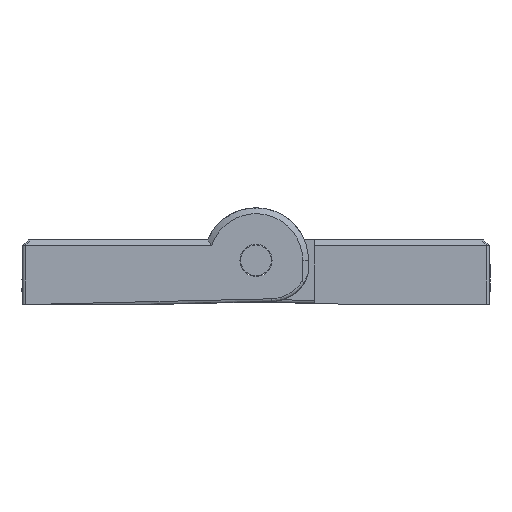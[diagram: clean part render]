
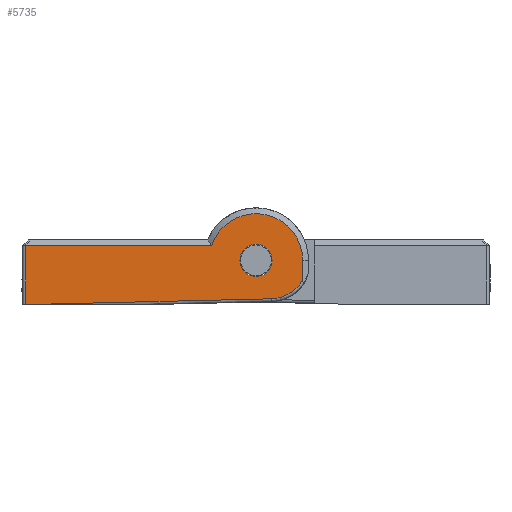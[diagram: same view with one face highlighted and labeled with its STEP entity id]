
A CAD part, front view. The second image highlights one B-rep face of the part: STEP entity #5735.
In plain terms, the highlighted planar face has unit normal (0, -1, 0) as drawn and (0, 1, 0) by its records, which use the part's own axes.
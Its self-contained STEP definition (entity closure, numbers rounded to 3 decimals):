
#127 = DIRECTION ( 'NONE',  ( -1., 0., 0.024 ) ) ;
#267 = DIRECTION ( 'NONE',  ( 0., 1., 0. ) ) ;
#288 = CARTESIAN_POINT ( 'NONE',  ( -7.874, 102., -3.587 ) ) ;
#309 = EDGE_CURVE ( 'NONE', #6389, #1330, #2835, .T. ) ;
#369 = EDGE_CURVE ( 'NONE', #1196, #6389, #8855, .T. ) ;
#396 = CARTESIAN_POINT ( 'NONE',  ( -8., 102., 0. ) ) ;
#480 = ORIENTED_EDGE ( 'NONE', *, *, #10708, .T. ) ;
#643 = VERTEX_POINT ( 'NONE', #928 ) ;
#928 = CARTESIAN_POINT ( 'NONE',  ( -8., 102., -3.34 ) ) ;
#1162 = CARTESIAN_POINT ( 'NONE',  ( -4.49, 102., -6.251 ) ) ;
#1196 = VERTEX_POINT ( 'NONE', #4249 ) ;
#1284 = EDGE_CURVE ( 'NONE', #643, #8468, #7642, .T. ) ;
#1330 = VERTEX_POINT ( 'NONE', #9121 ) ;
#1586 = ORIENTED_EDGE ( 'NONE', *, *, #7151, .T. ) ;
#1884 = VERTEX_POINT ( 'NONE', #5375 ) ;
#2062 = CARTESIAN_POINT ( 'NONE',  ( -5.257, 102., -5.939 ) ) ;
#2301 = DIRECTION ( 'NONE',  ( 0., 1., 0. ) ) ;
#2332 = CARTESIAN_POINT ( 'NONE',  ( 0., 102., 0. ) ) ;
#2525 = AXIS2_PLACEMENT_3D ( 'NONE', #2332, #8574, #3228 ) ;
#2608 = VERTEX_POINT ( 'NONE', #5860 ) ;
#2835 = LINE ( 'NONE', #8794, #5494 ) ;
#2938 = CARTESIAN_POINT ( 'NONE',  ( -5.973, 102., -5.54 ) ) ;
#3006 = EDGE_CURVE ( 'NONE', #2608, #11124, #3203, .T. ) ;
#3115 = AXIS2_PLACEMENT_3D ( 'NONE', #10345, #4973, #11245 ) ;
#3145 = PLANE ( 'NONE',  #3115 ) ;
#3203 = LINE ( 'NONE', #8330, #7981 ) ;
#3228 = DIRECTION ( 'NONE',  ( 0., 0., 1. ) ) ;
#3673 = VECTOR ( 'NONE', #10147, 1000. ) ;
#3759 = ORIENTED_EDGE ( 'NONE', *, *, #1284, .T. ) ;
#3860 = CARTESIAN_POINT ( 'NONE',  ( -6.636, 102., -5.052 ) ) ;
#4249 = CARTESIAN_POINT ( 'NONE',  ( 39.5, 102., -7.5 ) ) ;
#4284 = EDGE_LOOP ( 'NONE', ( #9266, #1586, #3759, #4304, #7212, #480, #10899 ) ) ;
#4304 = ORIENTED_EDGE ( 'NONE', *, *, #5745, .T. ) ;
#4541 = ORIENTED_EDGE ( 'NONE', *, *, #6696, .F. ) ;
#4705 = CARTESIAN_POINT ( 'NONE',  ( -3.162, 102., -6.571 ) ) ;
#4736 = CARTESIAN_POINT ( 'NONE',  ( -7.228, 102., -4.476 ) ) ;
#4973 = DIRECTION ( 'NONE',  ( 0., 1., 0. ) ) ;
#5321 = CARTESIAN_POINT ( 'NONE',  ( 39.5, 102., 2.5 ) ) ;
#5375 = CARTESIAN_POINT ( 'NONE',  ( 0., 102., -2.75 ) ) ;
#5494 = VECTOR ( 'NONE', #127, 1000. ) ;
#5611 = CARTESIAN_POINT ( 'NONE',  ( 0., 102., 0. ) ) ;
#5630 = CARTESIAN_POINT ( 'NONE',  ( -7.728, 102., -3.824 ) ) ;
#5700 = DIRECTION ( 'NONE',  ( 1., 0., 0. ) ) ;
#5735 = ADVANCED_FACE ( 'NONE', ( #8018, #11360 ), #3145, .T. ) ;
#5745 = EDGE_CURVE ( 'NONE', #8468, #2608, #6597, .T. ) ;
#5860 = CARTESIAN_POINT ( 'NONE',  ( 7.599, 102., 2.5 ) ) ;
#5912 = AXIS2_PLACEMENT_3D ( 'NONE', #5611, #267, #6524 ) ;
#6067 = CARTESIAN_POINT ( 'NONE',  ( 36.197, 102., -7.5 ) ) ;
#6091 = DIRECTION ( 'NONE',  ( -1., 0., 0. ) ) ;
#6358 = ORIENTED_EDGE ( 'NONE', *, *, #10136, .F. ) ;
#6389 = VERTEX_POINT ( 'NONE', #6067 ) ;
#6503 = CARTESIAN_POINT ( 'NONE',  ( -3.701, 102., -6.481 ) ) ;
#6524 = DIRECTION ( 'NONE',  ( 0., 0., 1. ) ) ;
#6545 = CARTESIAN_POINT ( 'NONE',  ( -8., 102., -3.34 ) ) ;
#6555 = CARTESIAN_POINT ( 'NONE',  ( 39.5, 102., -7.5 ) ) ;
#6597 = CIRCLE ( 'NONE', #2525, 8. ) ;
#6639 = VERTEX_POINT ( 'NONE', #8450 ) ;
#6696 = EDGE_CURVE ( 'NONE', #6639, #1884, #10926, .T. ) ;
#6701 = CARTESIAN_POINT ( 'NONE',  ( 40., 102., -7.5 ) ) ;
#7151 = EDGE_CURVE ( 'NONE', #1330, #643, #8486, .T. ) ;
#7212 = ORIENTED_EDGE ( 'NONE', *, *, #3006, .T. ) ;
#7381 = VECTOR ( 'NONE', #10936, 1000. ) ;
#7405 = CARTESIAN_POINT ( 'NONE',  ( -4.752, 102., -6.157 ) ) ;
#7642 = LINE ( 'NONE', #7759, #7381 ) ;
#7656 = CARTESIAN_POINT ( 'NONE',  ( 0., 102., 0. ) ) ;
#7759 = CARTESIAN_POINT ( 'NONE',  ( -8., 102., 0. ) ) ;
#7981 = VECTOR ( 'NONE', #5700, 1000. ) ;
#8018 = FACE_OUTER_BOUND ( 'NONE', #4284, .T. ) ;
#8211 = CIRCLE ( 'NONE', #5912, 2.75 ) ;
#8310 = CARTESIAN_POINT ( 'NONE',  ( -5.501, 102., -5.816 ) ) ;
#8330 = CARTESIAN_POINT ( 'NONE',  ( 40., 102., 2.5 ) ) ;
#8408 = LINE ( 'NONE', #6555, #3673 ) ;
#8450 = CARTESIAN_POINT ( 'NONE',  ( 0., 102., 2.75 ) ) ;
#8468 = VERTEX_POINT ( 'NONE', #396 ) ;
#8486 = B_SPLINE_CURVE_WITH_KNOTS ( 'NONE', 3,
 ( #10966, #4705, #6503, #1162, #7405, #2062, #8310, #2938, #9197, #3860, #10092, #4736, #11003, #5630, #288, #6545 ),
 .UNSPECIFIED., .F., .F.,
 ( 4, 2, 2, 2, 2, 2, 2, 4 ),
 ( 0., 0.002, 0.002, 0.003, 0.004, 0.005, 0.006, 0.007 ),
 .UNSPECIFIED. ) ;
#8555 = DIRECTION ( 'NONE',  ( 0., 0., 1. ) ) ;
#8566 = VECTOR ( 'NONE', #6091, 1000. ) ;
#8574 = DIRECTION ( 'NONE',  ( 0., 1., 0. ) ) ;
#8794 = CARTESIAN_POINT ( 'NONE',  ( -2.608, 102., -6.584 ) ) ;
#8855 = LINE ( 'NONE', #6701, #8566 ) ;
#9064 = AXIS2_PLACEMENT_3D ( 'NONE', #7656, #2301, #8555 ) ;
#9121 = CARTESIAN_POINT ( 'NONE',  ( -2.608, 102., -6.584 ) ) ;
#9197 = CARTESIAN_POINT ( 'NONE',  ( -6.2, 102., -5.388 ) ) ;
#9266 = ORIENTED_EDGE ( 'NONE', *, *, #309, .T. ) ;
#10092 = CARTESIAN_POINT ( 'NONE',  ( -6.844, 102., -4.867 ) ) ;
#10136 = EDGE_CURVE ( 'NONE', #1884, #6639, #8211, .T. ) ;
#10147 = DIRECTION ( 'NONE',  ( 0., 0., -1. ) ) ;
#10151 = EDGE_LOOP ( 'NONE', ( #6358, #4541 ) ) ;
#10345 = CARTESIAN_POINT ( 'NONE',  ( 0., 102., 0. ) ) ;
#10708 = EDGE_CURVE ( 'NONE', #11124, #1196, #8408, .T. ) ;
#10899 = ORIENTED_EDGE ( 'NONE', *, *, #369, .T. ) ;
#10926 = CIRCLE ( 'NONE', #9064, 2.75 ) ;
#10936 = DIRECTION ( 'NONE',  ( 0., 0., 1. ) ) ;
#10966 = CARTESIAN_POINT ( 'NONE',  ( -2.608, 102., -6.584 ) ) ;
#11003 = CARTESIAN_POINT ( 'NONE',  ( -7.405, 102., -4.268 ) ) ;
#11124 = VERTEX_POINT ( 'NONE', #5321 ) ;
#11245 = DIRECTION ( 'NONE',  ( 0., 0., 1. ) ) ;
#11360 = FACE_BOUND ( 'NONE', #10151, .T. ) ;
